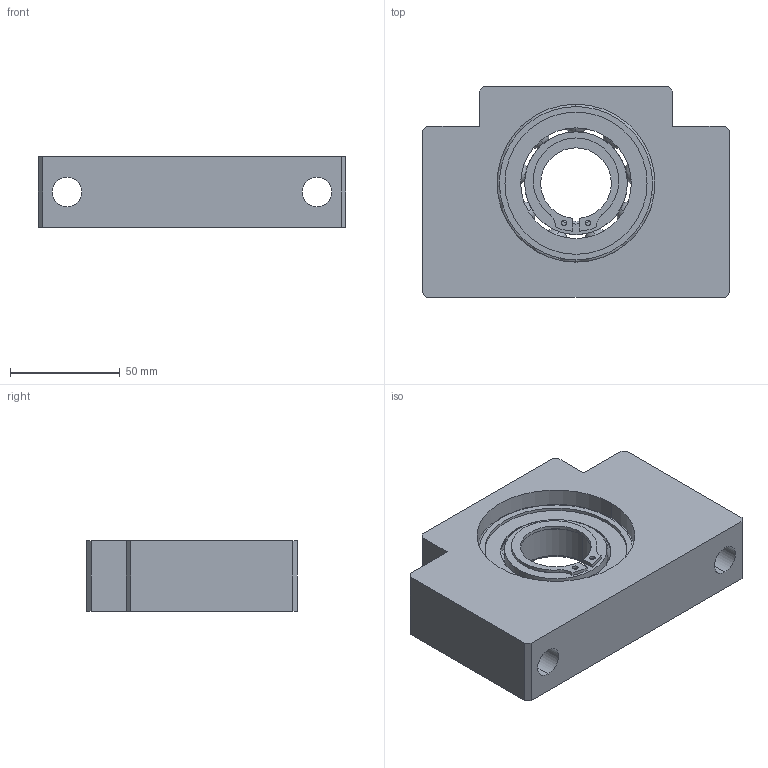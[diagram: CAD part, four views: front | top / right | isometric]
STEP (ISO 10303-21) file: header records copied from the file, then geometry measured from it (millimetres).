
FILE_DESCRIPTION (( 'STEP AP214' ), '1' );
FILE_NAME ('7.4015 BF35.STEP', '2026-03-06T07:07:37', ( '' ), ( '' ), 'SwSTEP 2.0', 'SolidWorks 2025', '' );
FILE_SCHEMA (( 'AUTOMOTIVE_DESIGN' ));
Length unit declared in the file: millimetre
Products named in the file (1): 7.4015 BF35
Bounding box: 140 x 96 x 32 mm (x, y, z)
Volume: 275786.9 mm3; surface area: 70687.6 mm2
Topology: 3 solids, 3 shells, 303 faces, 910 edges, 605 vertices
Faces by surface type: sphere 122, plane 77, cylinder 49, torus 38, bspline 17
Entity records: 23473 total; most frequent: CARTESIAN_POINT 13034, ORIENTED_EDGE 1820, DIRECTION 1491, EDGE_CURVE 910, AXIS2_PLACEMENT_3D 652, VERTEX_POINT 605, CIRCLE 365, B_SPLINE_CURVE_WITH_KNOTS 358
